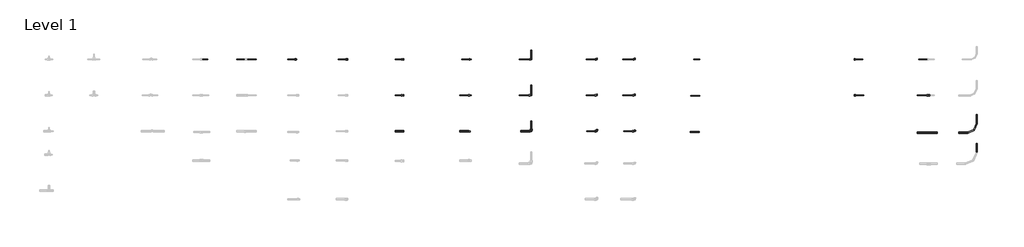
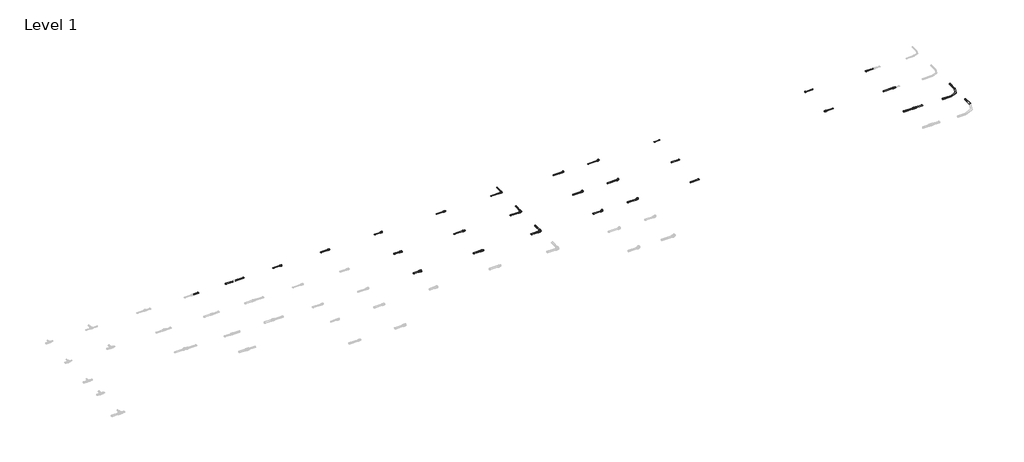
# One storey, part 12 of 16: 35 pipe segments, 24 pipe fittings.
"""IFC4 building model written with IfcOpenShell, lengths in millimetres."""

from ifc_helpers import new_model, si_unit, point, frame, frame_2d, origin, place, context, project, spatial, circle_curve, trimmed, segment, composite_curve, outline, extrude, transform, mapped, element, save
from components import pipe_fitting_24e9e25e, pipe_fitting_792dd94b, pipe_fitting_a5f7744a, pipe_fitting_d7e847e2, pipe_fitting_2fdc1963, pipe_fitting_5b5ff5cf, pipe_fitting_05bb6e73, pipe_fitting_31065531, pipe_fitting_a8691e68, pipe_fitting_d3274886, pipe_fitting_5bb2cb98, pipe_fitting_792aeb1b, pipe_fitting_ec6341fa, pipe_fitting_836a2278, pipe_fitting_2cdc80e6, pipe_fitting_749d9a03, pipe_fitting_037c3912, pipe_fitting_164b9098, pipe_fitting_15655edc, pipe_fitting_c1b6c9bd, pipe_fitting_c244d94c, pipe_fitting_ca26b6f5, pipe_fitting_c518d98d, pipe_fitting_b7086254

model = new_model("IFC4")

# Units and contexts
model_context = context("Model", 3, world=origin())
ifc_project = project(units=[si_unit("LENGTHUNIT", "METRE", prefix="MILLI")], contexts=[model_context])

# Site, building, storey
site = spatial("IfcSite", under=ifc_project)
building = spatial("IfcBuilding", under=site)
storey = spatial("IfcBuildingStorey", under=building, Name="Level 1", Elevation=0.0)

# Pipe fittings
placement = place(None, origin())
pipe_fitting_shape = pipe_fitting_24e9e25e(model_context)
element("IfcPipeFitting", 1, ObjectType="FASTLOC_Blanking plug EX+ : FSL Bp EX+ DE", at=placement, inside=storey, context=model_context, shape_type="MappedRepresentation", body=[
    mapped(pipe_fitting_shape, transform((22451.3241081, 1212.3520033, 0.0), x_axis=(1.0, 0.0, 0.0), y_axis=(0.0, 1.0, 0.0), z_axis=(0.0, 0.0, 1.0))),
])
pipe_fitting_2_shape = pipe_fitting_792dd94b(model_context)
element("IfcPipeFitting", 2, ObjectType="FASTLOC_Corner EX+ : FSL C EX+ DE", at=placement, inside=storey, context=model_context, shape_type="MappedRepresentation", body=[
    mapped(pipe_fitting_2_shape, transform((15275.3824015, 1212.3520033, 0.0), x_axis=(1.0, 0.0, 0.0), y_axis=(0.0, 1.0, 0.0), z_axis=(0.0, 0.0, 1.0))),
])
pipe_fitting_3_shape = pipe_fitting_a5f7744a(model_context)
element("IfcPipeFitting", 3, ObjectType="FASTLOC_Corner EX+ : FSL C EX+ DE", at=placement, inside=storey, context=model_context, shape_type="MappedRepresentation", body=[
    mapped(pipe_fitting_3_shape, transform((15275.3824015, 412.3520033, 0.0), x_axis=(1.0, 0.0, 0.0), y_axis=(0.0, 1.0, 0.0), z_axis=(0.0, 0.0, 1.0))),
])
pipe_fitting_4_shape = pipe_fitting_d7e847e2(model_context)
element("IfcPipeFitting", 4, ObjectType="FASTLOC_Elbow with female thread EX+ : FSL A internal DE", at=placement, inside=storey, context=model_context, shape_type="MappedRepresentation", body=[
    mapped(pipe_fitting_4_shape, transform((17573.8113057, 1212.3520033, 0.0), x_axis=(1.0, 0.0, 0.0), y_axis=(0.0, 1.0, 0.0), z_axis=(0.0, 0.0, 1.0))),
])
pipe_fitting_5_shape = pipe_fitting_2fdc1963(model_context)
element("IfcPipeFitting", 5, ObjectType="FASTLOC_Elbow with female thread EX+ : FSL A internal DE", at=placement, inside=storey, context=model_context, shape_type="MappedRepresentation", body=[
    mapped(pipe_fitting_5_shape, transform((17573.8113057, 412.3520033, 0.0), x_axis=(1.0, 0.0, 0.0), y_axis=(0.0, 1.0, 0.0), z_axis=(0.0, 0.0, 1.0))),
])
pipe_fitting_6_shape = pipe_fitting_5b5ff5cf(model_context)
element("IfcPipeFitting", 6, ObjectType="FASTLOC_Elbow with male thread EX+ : FSL A internal DE", at=placement, inside=storey, context=model_context, shape_type="MappedRepresentation", body=[
    mapped(pipe_fitting_6_shape, transform((16735.3824015, 2012.3520033, 0.0), x_axis=(1.0, 0.0, 0.0), y_axis=(0.0, 1.0, 0.0), z_axis=(0.0, 0.0, 1.0))),
])
pipe_fitting_7_shape = pipe_fitting_05bb6e73(model_context)
element("IfcPipeFitting", 7, ObjectType="FASTLOC_Elbow with male thread EX+ : FSL A internal DE", at=placement, inside=storey, context=model_context, shape_type="MappedRepresentation", body=[
    mapped(pipe_fitting_7_shape, transform((16735.3824015, 412.3520033, 0.0), x_axis=(1.0, 0.0, 0.0), y_axis=(0.0, 1.0, 0.0), z_axis=(0.0, 0.0, 1.0))),
])
pipe_fitting_8_shape = pipe_fitting_31065531(model_context)
element("IfcPipeFitting", 8, ObjectType="FASTLOC_ML_bend : FSL ML DE", at=placement, inside=storey, context=model_context, shape_type="MappedRepresentation", body=[
    mapped(pipe_fitting_8_shape, transform((25170.2040344, 381.145754, 0.0), x_axis=(1.0, 0.0, 0.0), y_axis=(0.0, 1.0, 0.0), z_axis=(0.0, 0.0, 1.0))),
])
pipe_fitting_9_shape = pipe_fitting_a8691e68(model_context)
element("IfcPipeFitting", 9, ObjectType="FASTLOC_Adapter_RX+, with external thread : FSL A C external EX+ DE", at=placement, inside=storey, context=model_context, shape_type="MappedRepresentation", body=[
    mapped(pipe_fitting_9_shape, transform((10045.0524741, 2012.3520033, 0.0), x_axis=(1.0, 0.0, 0.0), y_axis=(0.0, 1.0, 0.0), z_axis=(0.0, 0.0, 1.0))),
])
pipe_fitting_10_shape = pipe_fitting_d3274886(model_context)
element("IfcPipeFitting", 10, ObjectType="FASTLOC_Elbow with male thread EX+ : FSL A internal DE", at=placement, inside=storey, context=model_context, shape_type="MappedRepresentation", body=[
    mapped(pipe_fitting_10_shape, transform((16735.3824015, 1212.3520033, 0.0), x_axis=(1.0, 0.0, 0.0), y_axis=(0.0, 1.0, 0.0), z_axis=(0.0, 0.0, 1.0))),
])
pipe_fitting_11_shape = pipe_fitting_5bb2cb98(model_context)
element("IfcPipeFitting", 11, ObjectType="FASTLOC_Elbow with female thread EX+ : FSL A internal DE", at=placement, inside=storey, context=model_context, shape_type="MappedRepresentation", body=[
    mapped(pipe_fitting_11_shape, transform((17573.8113057, 2012.3520033, 0.0), x_axis=(1.0, 0.0, 0.0), y_axis=(0.0, 1.0, 0.0), z_axis=(0.0, 0.0, 1.0))),
])
pipe_fitting_12_shape = pipe_fitting_792aeb1b(model_context)
element("IfcPipeFitting", 12, ObjectType="FASTLOC_Corner EX+ : FSL C EX+ DE", at=placement, inside=storey, context=model_context, shape_type="MappedRepresentation", body=[
    mapped(pipe_fitting_12_shape, transform((15275.3824015, 2012.3520033, 0.0), x_axis=(1.0, 0.0, 0.0), y_axis=(0.0, 1.0, 0.0), z_axis=(0.0, 0.0, 1.0))),
])
pipe_fitting_13_shape = pipe_fitting_ec6341fa(model_context)
element("IfcPipeFitting", 13, ObjectType="FASTLOC_Blanking plug EX+ : FSL Bp EX+ DE", at=placement, inside=storey, context=model_context, shape_type="MappedRepresentation", body=[
    mapped(pipe_fitting_13_shape, transform((22451.3241081, 2012.3520033, 0.0), x_axis=(1.0, 0.0, 0.0), y_axis=(0.0, 1.0, 0.0), z_axis=(0.0, 0.0, 1.0))),
])
pipe_fitting_14_shape = pipe_fitting_836a2278(model_context)
element("IfcPipeFitting", 14, ObjectType="FASTLOC_Adapter_EX+, with internal thread : FSL A internal DE", at=placement, inside=storey, context=model_context, shape_type="MappedRepresentation", body=[
    mapped(pipe_fitting_14_shape, transform((11179.5143796, 2012.3520033, 0.0), x_axis=(1.0, 0.0, 0.0), y_axis=(0.0, 1.0, 0.0), z_axis=(0.0, 0.0, 1.0))),
])
pipe_fitting_15_shape = pipe_fitting_2cdc80e6(model_context)
element("IfcPipeFitting", 15, ObjectType="FASTLOC Copper press adapter RX+ : FSL RX+ DE", at=placement, inside=storey, context=model_context, shape_type="MappedRepresentation", body=[
    mapped(pipe_fitting_15_shape, transform((13915.3824015, 2012.3520033, 0.0), x_axis=(1.0, 0.0, 0.0), y_axis=(0.0, 1.0, 0.0), z_axis=(0.0, 0.0, 1.0))),
])
pipe_fitting_16_shape = pipe_fitting_749d9a03(model_context)
element("IfcPipeFitting", 16, ObjectType="RAUTITAN_Sleeve PX : RTI S PX", at=placement, inside=storey, context=model_context, shape_type="MappedRepresentation", body=[
    mapped(pipe_fitting_16_shape, transform((24105.6241081, 1212.3520033, 13.7), x_axis=(1.0, 0.0, 0.0), y_axis=(0.0, 1.0, 0.0), z_axis=(0.0, 0.0, 1.0))),
])
pipe_fitting_17_shape = pipe_fitting_037c3912(model_context)
element("IfcPipeFitting", 17, ObjectType="RAUTITAN_Sleeve PX : RTI S PX", at=placement, inside=storey, context=model_context, shape_type="MappedRepresentation", body=[
    mapped(pipe_fitting_17_shape, transform((24107.9241081, 381.145754, 13.7), x_axis=(1.0, 0.0, 0.0), y_axis=(0.0, 1.0, 0.0), z_axis=(0.0, 0.0, 1.0))),
])
pipe_fitting_18_shape = pipe_fitting_164b9098(model_context)
element("IfcPipeFitting", 18, ObjectType="FASTLOC Copper press adapter RX+ : FSL RX+ DE", at=placement, inside=storey, context=model_context, shape_type="MappedRepresentation", body=[
    mapped(pipe_fitting_18_shape, transform((13915.3824015, 1212.3520033, 0.0), x_axis=(1.0, 0.0, 0.0), y_axis=(0.0, 1.0, 0.0), z_axis=(0.0, 0.0, 1.0))),
])
pipe_fitting_19_shape = pipe_fitting_15655edc(model_context)
element("IfcPipeFitting", 19, ObjectType="FASTLOC Copper press adapter RX+ : FSL RX+ DE", at=placement, inside=storey, context=model_context, shape_type="MappedRepresentation", body=[
    mapped(pipe_fitting_19_shape, transform((13895.3824015, 412.3520033, 0.0), x_axis=(1.0, 0.0, 0.0), y_axis=(0.0, 1.0, 0.0), z_axis=(0.0, 0.0, 1.0))),
])
pipe_fitting_20_shape = pipe_fitting_c1b6c9bd(model_context)
element("IfcPipeFitting", 20, ObjectType="FASTLOC_Adapter coupling EX+ : FSL TC EX+ DE", at=placement, inside=storey, context=model_context, shape_type="MappedRepresentation", body=[
    mapped(pipe_fitting_20_shape, transform((24091.3241081, 1212.3520033, 13.7), x_axis=(1.0, 0.0, 0.0), y_axis=(0.0, 1.0, 0.0), z_axis=(0.0, 0.0, 1.0))),
])
pipe_fitting_21_shape = pipe_fitting_c244d94c(model_context)
element("IfcPipeFitting", 21, ObjectType="FASTLOC_Adapter coupling EX+ : FSL TC EX+ DE", at=placement, inside=storey, context=model_context, shape_type="MappedRepresentation", body=[
    mapped(pipe_fitting_21_shape, transform((24091.3241081, 381.145754, 13.7), x_axis=(1.0, 0.0, 0.0), y_axis=(0.0, 1.0, 0.0), z_axis=(0.0, 0.0, 1.0))),
])
pipe_fitting_22_shape = pipe_fitting_ca26b6f5(model_context)
element("IfcPipeFitting", 22, ObjectType="FASTLOC_Adapter with union nut EX+ : FSL A union nut EX+ DE", at=placement, inside=storey, context=model_context, shape_type="MappedRepresentation", body=[
    mapped(pipe_fitting_22_shape, transform((12418.3503777, 2012.3520033, 0.0), x_axis=(1.0, 0.0, 0.0), y_axis=(0.0, 1.0, 0.0), z_axis=(0.0, 0.0, 1.0))),
])
pipe_fitting_23_shape = pipe_fitting_c518d98d(model_context)
element("IfcPipeFitting", 23, ObjectType="FASTLOC_Adapter with union nut EX+ : FSL A union nut EX+ DE", at=placement, inside=storey, context=model_context, shape_type="MappedRepresentation", body=[
    mapped(pipe_fitting_23_shape, transform((12418.3503777, 1212.3520033, 0.0), x_axis=(1.0, 0.0, 0.0), y_axis=(0.0, 1.0, 0.0), z_axis=(0.0, 0.0, 1.0))),
])
pipe_fitting_24_shape = pipe_fitting_b7086254(model_context)
element("IfcPipeFitting", 24, ObjectType="FASTLOC_Adapter with union nut EX+ : FSL A union nut EX+ DE", at=placement, inside=storey, context=model_context, shape_type="MappedRepresentation", body=[
    mapped(pipe_fitting_24_shape, transform((12418.3503777, 412.3520033, 0.0), x_axis=(1.0, 0.0, 0.0), y_axis=(0.0, 1.0, 0.0), z_axis=(0.0, 0.0, 1.0))),
])

# Pipe segments
element("IfcPipeSegment", 25, ObjectType="FASTLOC EX+ ML DE bar", at=placement, inside=storey, context=model_context, shape_type="SweptSolid", body=[
    extrude(outline(composite_curve([segment(trimmed(circle_curve(frame_2d((0.0, 25170.2040344)), 12.5), [point((0.0, 25182.7040344))], [point((12.5, 25170.2040344))], False, "CARTESIAN"), True, "CONTINUOUS"), segment(trimmed(circle_curve(frame_2d((0.0, 25170.2040344)), 12.5), [point((12.5, 25170.2040344))], [point((0.0, 25157.7040344))], False, "CARTESIAN"), True, "CONTINUOUS"), segment(trimmed(circle_curve(frame_2d((0.0, 25170.2040344)), 12.5), [point((0.0, 25157.7040344))], [point((-12.5, 25170.2040344))], False, "CARTESIAN"), True, "CONTINUOUS"), segment(trimmed(circle_curve(frame_2d((0.0, 25170.2040344)), 12.5), [point((-12.5, 25170.2040344))], [point((0.0, 25182.7040344))], False, "CARTESIAN"), True, "CONTINUOUS")], self_intersect=False)), frame((0.0, 581.145754, 0.0), z_axis=(0.0, 1.0, 0.0), x_axis=(0.0, 0.0, 1.0)), (0.0, 0.0, 1.0), 200.0),
])
element("IfcPipeSegment", 26, ObjectType="FASTLOC EX+ ML DE bar", at=placement, inside=storey, context=model_context, shape_type="SweptSolid", body=[
    extrude(outline(composite_curve([segment(trimmed(circle_curve(frame_2d((381.145754, 0.0)), 12.5), [point((393.645754, 0.0))], [point((381.145754, -12.5))], False, "CARTESIAN"), True, "CONTINUOUS"), segment(trimmed(circle_curve(frame_2d((381.145754, 0.0)), 12.5), [point((381.145754, -12.5))], [point((368.645754, 0.0))], False, "CARTESIAN"), True, "CONTINUOUS"), segment(trimmed(circle_curve(frame_2d((381.145754, 0.0)), 12.5), [point((368.645754, 0.0))], [point((381.145754, 12.5))], False, "CARTESIAN"), True, "CONTINUOUS"), segment(trimmed(circle_curve(frame_2d((381.145754, 0.0)), 12.5), [point((381.145754, 12.5))], [point((393.645754, 0.0))], False, "CARTESIAN"), True, "CONTINUOUS")], self_intersect=False)), frame((24770.2040344, 0.0, 0.0), z_axis=(1.0, 0.0, 0.0), x_axis=(0.0, 1.0, 0.0)), (0.0, 0.0, 1.0), 200.0),
])
element("IfcPipeSegment", 27, ObjectType="FASTLOC EX+ ML DE bar", at=placement, inside=storey, context=model_context, shape_type="SweptSolid", body=[
    extrude(outline(composite_curve([segment(trimmed(circle_curve(frame_2d((0.0, 25170.2040344)), 16.0), [point((0.0, 25186.2040344))], [point((16.0, 25170.2040344))], False, "CARTESIAN"), True, "CONTINUOUS"), segment(trimmed(circle_curve(frame_2d((0.0, 25170.2040344)), 16.0), [point((16.0, 25170.2040344))], [point((0.0, 25154.2040344))], False, "CARTESIAN"), True, "CONTINUOUS"), segment(trimmed(circle_curve(frame_2d((0.0, 25170.2040344)), 16.0), [point((0.0, 25154.2040344))], [point((-16.0, 25170.2040344))], False, "CARTESIAN"), True, "CONTINUOUS"), segment(trimmed(circle_curve(frame_2d((0.0, 25170.2040344)), 16.0), [point((-16.0, 25170.2040344))], [point((0.0, 25186.2040344))], False, "CARTESIAN"), True, "CONTINUOUS")], self_intersect=False)), frame((0.0, -55.8142398, 0.0), z_axis=(0.0, 1.0, 0.0), x_axis=(0.0, 0.0, 1.0)), (0.0, 0.0, 1.0), 200.0),
])
element("IfcPipeSegment", 28, ObjectType="FASTLOC EX+ ML DE bar", at=placement, inside=storey, context=model_context, shape_type="SweptSolid", body=[
    extrude(outline(composite_curve([segment(trimmed(circle_curve(frame_2d((381.145754, 13.7)), 12.5), [point((393.645754, 13.7))], [point((381.145754, 1.2))], False, "CARTESIAN"), True, "CONTINUOUS"), segment(trimmed(circle_curve(frame_2d((381.145754, 13.7)), 12.5), [point((381.145754, 1.2))], [point((368.645754, 13.7))], False, "CARTESIAN"), True, "CONTINUOUS"), segment(trimmed(circle_curve(frame_2d((381.145754, 13.7)), 12.5), [point((368.645754, 13.7))], [point((381.145754, 26.2))], False, "CARTESIAN"), True, "CONTINUOUS"), segment(trimmed(circle_curve(frame_2d((381.145754, 13.7)), 12.5), [point((381.145754, 26.2))], [point((393.645754, 13.7))], False, "CARTESIAN"), True, "CONTINUOUS")], self_intersect=False)), frame((23846.7241081, 0.0, 0.0), z_axis=(1.0, 0.0, 0.0), x_axis=(0.0, 1.0, 0.0)), (0.0, 0.0, 1.0), 240.0),
])
element("IfcPipeSegment", 29, ObjectType="FASTLOC EX+ ML DE bar", at=placement, inside=storey, context=model_context, shape_type="SweptSolid", body=[
    extrude(outline(composite_curve([segment(trimmed(circle_curve(frame_2d((381.145754, 13.7)), 12.5), [point((368.645754, 13.7))], [point((381.145754, 26.2))], False, "CARTESIAN"), True, "CONTINUOUS"), segment(trimmed(circle_curve(frame_2d((381.145754, 13.7)), 12.5), [point((381.145754, 26.2))], [point((393.645754, 13.7))], False, "CARTESIAN"), True, "CONTINUOUS"), segment(trimmed(circle_curve(frame_2d((381.145754, 13.7)), 12.5), [point((393.645754, 13.7))], [point((381.145754, 1.2))], False, "CARTESIAN"), True, "CONTINUOUS"), segment(trimmed(circle_curve(frame_2d((381.145754, 13.7)), 12.5), [point((381.145754, 1.2))], [point((368.645754, 13.7))], False, "CARTESIAN"), True, "CONTINUOUS")], self_intersect=False)), frame((24107.9241081, 0.0, 0.0), z_axis=(1.0, 0.0, 0.0), x_axis=(0.0, 1.0, 0.0)), (0.0, 0.0, 1.0), 182.7),
])
element("IfcPipeSegment", 30, ObjectType="FASTLOC EX+ ML DE bar", at=placement, inside=storey, context=model_context, shape_type="SweptSolid", body=[
    extrude(outline(composite_curve([segment(trimmed(circle_curve(frame_2d((1212.3520033, 13.7)), 10.0), [point((1222.3520033, 13.7))], [point((1212.3520033, 3.7))], False, "CARTESIAN"), True, "CONTINUOUS"), segment(trimmed(circle_curve(frame_2d((1212.3520033, 13.7)), 10.0), [point((1212.3520033, 3.7))], [point((1202.3520033, 13.7))], False, "CARTESIAN"), True, "CONTINUOUS"), segment(trimmed(circle_curve(frame_2d((1212.3520033, 13.7)), 10.0), [point((1202.3520033, 13.7))], [point((1212.3520033, 23.7))], False, "CARTESIAN"), True, "CONTINUOUS"), segment(trimmed(circle_curve(frame_2d((1212.3520033, 13.7)), 10.0), [point((1212.3520033, 23.7))], [point((1222.3520033, 13.7))], False, "CARTESIAN"), True, "CONTINUOUS")], self_intersect=False)), frame((23846.7241081, 0.0, 0.0), z_axis=(1.0, 0.0, 0.0), x_axis=(0.0, 1.0, 0.0)), (0.0, 0.0, 1.0), 240.3),
])
element("IfcPipeSegment", 31, ObjectType="FASTLOC EX+ ML DE bar", at=placement, inside=storey, context=model_context, shape_type="SweptSolid", body=[
    extrude(outline(composite_curve([segment(trimmed(circle_curve(frame_2d((2012.3520033, 13.7)), 8.0), [point((2020.3520033, 13.7))], [point((2012.3520033, 5.7))], False, "CARTESIAN"), True, "CONTINUOUS"), segment(trimmed(circle_curve(frame_2d((2012.3520033, 13.7)), 8.0), [point((2012.3520033, 5.7))], [point((2004.3520033, 13.7))], False, "CARTESIAN"), True, "CONTINUOUS"), segment(trimmed(circle_curve(frame_2d((2012.3520033, 13.7)), 8.0), [point((2004.3520033, 13.7))], [point((2012.3520033, 21.7))], False, "CARTESIAN"), True, "CONTINUOUS"), segment(trimmed(circle_curve(frame_2d((2012.3520033, 13.7)), 8.0), [point((2012.3520033, 21.7))], [point((2020.3520033, 13.7))], False, "CARTESIAN"), True, "CONTINUOUS")], self_intersect=False)), frame((23887.0241081, 0.0, 0.0), z_axis=(1.0, 0.0, 0.0), x_axis=(0.0, 1.0, 0.0)), (0.0, 0.0, 1.0), 200.0),
])
element("IfcPipeSegment", 32, ObjectType="FASTLOC EX+ ML DE bar", at=placement, inside=storey, context=model_context, shape_type="SweptSolid", body=[
    extrude(outline(composite_curve([segment(trimmed(circle_curve(frame_2d((2012.3520033, 0.0)), 8.0), [point((2004.3520033, 0.0))], [point((2012.3520033, 8.0))], False, "CARTESIAN"), True, "CONTINUOUS"), segment(trimmed(circle_curve(frame_2d((2012.3520033, 0.0)), 8.0), [point((2012.3520033, 8.0))], [point((2020.3520033, 0.0))], False, "CARTESIAN"), True, "CONTINUOUS"), segment(trimmed(circle_curve(frame_2d((2012.3520033, 0.0)), 8.0), [point((2020.3520033, 0.0))], [point((2012.3520033, -8.0))], False, "CARTESIAN"), True, "CONTINUOUS"), segment(trimmed(circle_curve(frame_2d((2012.3520033, 0.0)), 8.0), [point((2012.3520033, -8.0))], [point((2004.3520033, 0.0))], False, "CARTESIAN"), True, "CONTINUOUS")], self_intersect=False)), frame((22458.0241081, 0.0, 0.0), z_axis=(1.0, 0.0, 0.0), x_axis=(0.0, 1.0, 0.0)), (0.0, 0.0, 1.0), 180.0),
])
element("IfcPipeSegment", 33, ObjectType="FASTLOC EX+ ML DE bar", at=placement, inside=storey, context=model_context, shape_type="SweptSolid", body=[
    extrude(outline(composite_curve([segment(trimmed(circle_curve(frame_2d((1212.3520033, 0.0)), 10.0), [point((1202.3520033, 0.0))], [point((1212.3520033, 10.0))], False, "CARTESIAN"), True, "CONTINUOUS"), segment(trimmed(circle_curve(frame_2d((1212.3520033, 0.0)), 10.0), [point((1212.3520033, 10.0))], [point((1222.3520033, 0.0))], False, "CARTESIAN"), True, "CONTINUOUS"), segment(trimmed(circle_curve(frame_2d((1212.3520033, 0.0)), 10.0), [point((1222.3520033, 0.0))], [point((1212.3520033, -10.0))], False, "CARTESIAN"), True, "CONTINUOUS"), segment(trimmed(circle_curve(frame_2d((1212.3520033, 0.0)), 10.0), [point((1212.3520033, -10.0))], [point((1202.3520033, 0.0))], False, "CARTESIAN"), True, "CONTINUOUS")], self_intersect=False)), frame((22458.0241081, 0.0, 0.0), z_axis=(1.0, 0.0, 0.0), x_axis=(0.0, 1.0, 0.0)), (0.0, 0.0, 1.0), 200.0),
])
element("IfcPipeSegment", 34, ObjectType="FASTLOC EX+ ML DE bar", at=placement, inside=storey, context=model_context, shape_type="SweptSolid", body=[
    extrude(outline(composite_curve([segment(trimmed(circle_curve(frame_2d((2012.3520033, 0.0)), 8.0), [point((2020.3520033, 0.0))], [point((2012.3520033, -8.0))], False, "CARTESIAN"), True, "CONTINUOUS"), segment(trimmed(circle_curve(frame_2d((2012.3520033, 0.0)), 8.0), [point((2012.3520033, -8.0))], [point((2004.3520033, 0.0))], False, "CARTESIAN"), True, "CONTINUOUS"), segment(trimmed(circle_curve(frame_2d((2012.3520033, 0.0)), 8.0), [point((2004.3520033, 0.0))], [point((2012.3520033, 8.0))], False, "CARTESIAN"), True, "CONTINUOUS"), segment(trimmed(circle_curve(frame_2d((2012.3520033, 0.0)), 8.0), [point((2012.3520033, 8.0))], [point((2020.3520033, 0.0))], False, "CARTESIAN"), True, "CONTINUOUS")], self_intersect=False)), frame((18882.8824015, 0.0, 0.0), z_axis=(1.0, 0.0, 0.0), x_axis=(0.0, 1.0, 0.0)), (0.0, 0.0, 1.0), 130.0),
])
element("IfcPipeSegment", 35, ObjectType="FASTLOC EX+ ML DE bar", at=placement, inside=storey, context=model_context, shape_type="SweptSolid", body=[
    extrude(outline(composite_curve([segment(trimmed(circle_curve(frame_2d((1204.3520033, 0.0)), 8.0), [point((1212.3520033, 0.0))], [point((1204.3520033, -8.0))], False, "CARTESIAN"), True, "CONTINUOUS"), segment(trimmed(circle_curve(frame_2d((1204.3520033, 0.0)), 8.0), [point((1204.3520033, -8.0))], [point((1196.3520033, 0.0))], False, "CARTESIAN"), True, "CONTINUOUS"), segment(trimmed(circle_curve(frame_2d((1204.3520033, 0.0)), 8.0), [point((1196.3520033, 0.0))], [point((1204.3520033, 8.0))], False, "CARTESIAN"), True, "CONTINUOUS"), segment(trimmed(circle_curve(frame_2d((1204.3520033, 0.0)), 8.0), [point((1204.3520033, 8.0))], [point((1212.3520033, 0.0))], False, "CARTESIAN"), True, "CONTINUOUS")], self_intersect=False)), frame((18822.8824015, 0.0, 0.0), z_axis=(1.0, 0.0, 0.0), x_axis=(0.0, 1.0, 0.0)), (0.0, 0.0, 1.0), 190.0),
])
element("IfcPipeSegment", 36, ObjectType="FASTLOC EX+ ML DE bar", at=placement, inside=storey, context=model_context, shape_type="SweptSolid", body=[
    extrude(outline(composite_curve([segment(trimmed(circle_curve(frame_2d((393.645754, 0.0)), 12.5), [point((406.145754, 0.0))], [point((393.645754, -12.5))], False, "CARTESIAN"), True, "CONTINUOUS"), segment(trimmed(circle_curve(frame_2d((393.645754, 0.0)), 12.5), [point((393.645754, -12.5))], [point((381.145754, 0.0))], False, "CARTESIAN"), True, "CONTINUOUS"), segment(trimmed(circle_curve(frame_2d((393.645754, 0.0)), 12.5), [point((381.145754, 0.0))], [point((393.645754, 12.5))], False, "CARTESIAN"), True, "CONTINUOUS"), segment(trimmed(circle_curve(frame_2d((393.645754, 0.0)), 12.5), [point((393.645754, 12.5))], [point((406.145754, 0.0))], False, "CARTESIAN"), True, "CONTINUOUS")], self_intersect=False)), frame((18808.4824015, 0.0, 0.0), z_axis=(1.0, 0.0, 0.0), x_axis=(0.0, 1.0, 0.0)), (0.0, 0.0, 1.0), 200.0),
])
element("IfcPipeSegment", 37, ObjectType="FASTLOC EX+ ML DE bar", at=placement, inside=storey, context=model_context, shape_type="SweptSolid", body=[
    extrude(outline(composite_curve([segment(trimmed(circle_curve(frame_2d((412.3520033, 0.0)), 10.0), [point((422.3520033, 0.0))], [point((412.3520033, -10.0))], False, "CARTESIAN"), True, "CONTINUOUS"), segment(trimmed(circle_curve(frame_2d((412.3520033, 0.0)), 10.0), [point((412.3520033, -10.0))], [point((402.3520033, 0.0))], False, "CARTESIAN"), True, "CONTINUOUS"), segment(trimmed(circle_curve(frame_2d((412.3520033, 0.0)), 10.0), [point((402.3520033, 0.0))], [point((412.3520033, 10.0))], False, "CARTESIAN"), True, "CONTINUOUS"), segment(trimmed(circle_curve(frame_2d((412.3520033, 0.0)), 10.0), [point((412.3520033, 10.0))], [point((422.3520033, 0.0))], False, "CARTESIAN"), True, "CONTINUOUS")], self_intersect=False)), frame((17326.8113057, 0.0, 0.0), z_axis=(1.0, 0.0, 0.0), x_axis=(0.0, 1.0, 0.0)), (0.0, 0.0, 1.0), 221.0),
])
element("IfcPipeSegment", 38, ObjectType="FASTLOC EX+ ML DE bar", at=placement, inside=storey, context=model_context, shape_type="SweptSolid", body=[
    extrude(outline(composite_curve([segment(trimmed(circle_curve(frame_2d((1212.3520033, 0.0)), 10.0), [point((1222.3520033, 0.0))], [point((1212.3520033, -10.0))], False, "CARTESIAN"), True, "CONTINUOUS"), segment(trimmed(circle_curve(frame_2d((1212.3520033, 0.0)), 10.0), [point((1212.3520033, -10.0))], [point((1202.3520033, 0.0))], False, "CARTESIAN"), True, "CONTINUOUS"), segment(trimmed(circle_curve(frame_2d((1212.3520033, 0.0)), 10.0), [point((1202.3520033, 0.0))], [point((1212.3520033, 10.0))], False, "CARTESIAN"), True, "CONTINUOUS"), segment(trimmed(circle_curve(frame_2d((1212.3520033, 0.0)), 10.0), [point((1212.3520033, 10.0))], [point((1222.3520033, 0.0))], False, "CARTESIAN"), True, "CONTINUOUS")], self_intersect=False)), frame((17311.1113057, 0.0, 0.0), z_axis=(1.0, 0.0, 0.0), x_axis=(0.0, 1.0, 0.0)), (0.0, 0.0, 1.0), 240.0),
])
element("IfcPipeSegment", 39, ObjectType="FASTLOC EX+ ML DE bar", at=placement, inside=storey, context=model_context, shape_type="SweptSolid", body=[
    extrude(outline(composite_curve([segment(trimmed(circle_curve(frame_2d((2012.3520033, 0.0)), 8.0), [point((2020.3520033, 0.0))], [point((2012.3520033, -8.0))], False, "CARTESIAN"), True, "CONTINUOUS"), segment(trimmed(circle_curve(frame_2d((2012.3520033, 0.0)), 8.0), [point((2012.3520033, -8.0))], [point((2004.3520033, 0.0))], False, "CARTESIAN"), True, "CONTINUOUS"), segment(trimmed(circle_curve(frame_2d((2012.3520033, 0.0)), 8.0), [point((2004.3520033, 0.0))], [point((2012.3520033, 8.0))], False, "CARTESIAN"), True, "CONTINUOUS"), segment(trimmed(circle_curve(frame_2d((2012.3520033, 0.0)), 8.0), [point((2012.3520033, 8.0))], [point((2020.3520033, 0.0))], False, "CARTESIAN"), True, "CONTINUOUS")], self_intersect=False)), frame((17311.1113057, 0.0, 0.0), z_axis=(1.0, 0.0, 0.0), x_axis=(0.0, 1.0, 0.0)), (0.0, 0.0, 1.0), 240.4),
])
element("IfcPipeSegment", 40, ObjectType="FASTLOC EX+ ML DE bar", at=placement, inside=storey, context=model_context, shape_type="SweptSolid", body=[
    extrude(outline(composite_curve([segment(trimmed(circle_curve(frame_2d((2012.3520033, 0.0)), 8.0), [point((2020.3520033, 0.0))], [point((2012.3520033, -8.0))], False, "CARTESIAN"), True, "CONTINUOUS"), segment(trimmed(circle_curve(frame_2d((2012.3520033, 0.0)), 8.0), [point((2012.3520033, -8.0))], [point((2004.3520033, 0.0))], False, "CARTESIAN"), True, "CONTINUOUS"), segment(trimmed(circle_curve(frame_2d((2012.3520033, 0.0)), 8.0), [point((2004.3520033, 0.0))], [point((2012.3520033, 8.0))], False, "CARTESIAN"), True, "CONTINUOUS"), segment(trimmed(circle_curve(frame_2d((2012.3520033, 0.0)), 8.0), [point((2012.3520033, 8.0))], [point((2020.3520033, 0.0))], False, "CARTESIAN"), True, "CONTINUOUS")], self_intersect=False)), frame((16495.5824015, 0.0, 0.0), z_axis=(1.0, 0.0, 0.0), x_axis=(0.0, 1.0, 0.0)), (0.0, 0.0, 1.0), 220.0),
])
element("IfcPipeSegment", 41, ObjectType="FASTLOC EX+ ML DE bar", at=placement, inside=storey, context=model_context, shape_type="SweptSolid", body=[
    extrude(outline(composite_curve([segment(trimmed(circle_curve(frame_2d((1212.3520033, 0.0)), 10.0), [point((1222.3520033, 0.0))], [point((1212.3520033, -10.0))], False, "CARTESIAN"), True, "CONTINUOUS"), segment(trimmed(circle_curve(frame_2d((1212.3520033, 0.0)), 10.0), [point((1212.3520033, -10.0))], [point((1202.3520033, 0.0))], False, "CARTESIAN"), True, "CONTINUOUS"), segment(trimmed(circle_curve(frame_2d((1212.3520033, 0.0)), 10.0), [point((1202.3520033, 0.0))], [point((1212.3520033, 10.0))], False, "CARTESIAN"), True, "CONTINUOUS"), segment(trimmed(circle_curve(frame_2d((1212.3520033, 0.0)), 10.0), [point((1212.3520033, 10.0))], [point((1222.3520033, 0.0))], False, "CARTESIAN"), True, "CONTINUOUS")], self_intersect=False)), frame((16495.5824015, 0.0, 0.0), z_axis=(1.0, 0.0, 0.0), x_axis=(0.0, 1.0, 0.0)), (0.0, 0.0, 1.0), 219.6),
])
element("IfcPipeSegment", 42, ObjectType="FASTLOC EX+ ML DE bar", at=placement, inside=storey, context=model_context, shape_type="SweptSolid", body=[
    extrude(outline(composite_curve([segment(trimmed(circle_curve(frame_2d((412.3520033, 0.0)), 10.0), [point((422.3520033, 0.0))], [point((412.3520033, -10.0))], False, "CARTESIAN"), True, "CONTINUOUS"), segment(trimmed(circle_curve(frame_2d((412.3520033, 0.0)), 10.0), [point((412.3520033, -10.0))], [point((402.3520033, 0.0))], False, "CARTESIAN"), True, "CONTINUOUS"), segment(trimmed(circle_curve(frame_2d((412.3520033, 0.0)), 10.0), [point((402.3520033, 0.0))], [point((412.3520033, 10.0))], False, "CARTESIAN"), True, "CONTINUOUS"), segment(trimmed(circle_curve(frame_2d((412.3520033, 0.0)), 10.0), [point((412.3520033, 10.0))], [point((422.3520033, 0.0))], False, "CARTESIAN"), True, "CONTINUOUS")], self_intersect=False)), frame((16512.1824015, 0.0, 0.0), z_axis=(1.0, 0.0, 0.0), x_axis=(0.0, 1.0, 0.0)), (0.0, 0.0, 1.0), 200.0),
])
element("IfcPipeSegment", 43, ObjectType="FASTLOC EX+ ML DE bar", at=placement, inside=storey, context=model_context, shape_type="SweptSolid", body=[
    extrude(outline(composite_curve([segment(trimmed(circle_curve(frame_2d((2012.3520033, 0.0)), 8.0), [point((2020.3520033, 0.0))], [point((2012.3520033, -8.0))], False, "CARTESIAN"), True, "CONTINUOUS"), segment(trimmed(circle_curve(frame_2d((2012.3520033, 0.0)), 8.0), [point((2012.3520033, -8.0))], [point((2004.3520033, 0.0))], False, "CARTESIAN"), True, "CONTINUOUS"), segment(trimmed(circle_curve(frame_2d((2012.3520033, 0.0)), 8.0), [point((2004.3520033, 0.0))], [point((2012.3520033, 8.0))], False, "CARTESIAN"), True, "CONTINUOUS"), segment(trimmed(circle_curve(frame_2d((2012.3520033, 0.0)), 8.0), [point((2012.3520033, 8.0))], [point((2020.3520033, 0.0))], False, "CARTESIAN"), True, "CONTINUOUS")], self_intersect=False)), frame((15013.2824015, 0.0, 0.0), z_axis=(1.0, 0.0, 0.0), x_axis=(0.0, 1.0, 0.0)), (0.0, 0.0, 1.0), 240.0),
])
element("IfcPipeSegment", 44, ObjectType="FASTLOC EX+ ML DE bar", at=placement, inside=storey, context=model_context, shape_type="SweptSolid", body=[
    extrude(outline(composite_curve([segment(trimmed(circle_curve(frame_2d((1212.3520033, 0.0)), 10.0), [point((1222.3520033, 0.0))], [point((1212.3520033, -10.0))], False, "CARTESIAN"), True, "CONTINUOUS"), segment(trimmed(circle_curve(frame_2d((1212.3520033, 0.0)), 10.0), [point((1212.3520033, -10.0))], [point((1202.3520033, 0.0))], False, "CARTESIAN"), True, "CONTINUOUS"), segment(trimmed(circle_curve(frame_2d((1212.3520033, 0.0)), 10.0), [point((1202.3520033, 0.0))], [point((1212.3520033, 10.0))], False, "CARTESIAN"), True, "CONTINUOUS"), segment(trimmed(circle_curve(frame_2d((1212.3520033, 0.0)), 10.0), [point((1212.3520033, 10.0))], [point((1222.3520033, 0.0))], False, "CARTESIAN"), True, "CONTINUOUS")], self_intersect=False)), frame((15013.2824015, 0.0, 0.0), z_axis=(1.0, 0.0, 0.0), x_axis=(0.0, 1.0, 0.0)), (0.0, 0.0, 1.0), 237.5),
])
element("IfcPipeSegment", 45, ObjectType="FASTLOC EX+ ML DE bar", at=placement, inside=storey, context=model_context, shape_type="SweptSolid", body=[
    extrude(outline(composite_curve([segment(trimmed(circle_curve(frame_2d((0.0, 15275.3824015)), 10.0), [point((0.0, 15285.3824015))], [point((10.0, 15275.3824015))], False, "CARTESIAN"), True, "CONTINUOUS"), segment(trimmed(circle_curve(frame_2d((0.0, 15275.3824015)), 10.0), [point((10.0, 15275.3824015))], [point((0.0, 15265.3824015))], False, "CARTESIAN"), True, "CONTINUOUS"), segment(trimmed(circle_curve(frame_2d((0.0, 15275.3824015)), 10.0), [point((0.0, 15265.3824015))], [point((-10.0, 15275.3824015))], False, "CARTESIAN"), True, "CONTINUOUS"), segment(trimmed(circle_curve(frame_2d((0.0, 15275.3824015)), 10.0), [point((-10.0, 15275.3824015))], [point((0.0, 15285.3824015))], False, "CARTESIAN"), True, "CONTINUOUS")], self_intersect=False)), frame((0.0, 1236.9520033, 0.0), z_axis=(0.0, 1.0, 0.0), x_axis=(0.0, 0.0, 1.0)), (0.0, 0.0, 1.0), 200.0),
])
element("IfcPipeSegment", 46, ObjectType="FASTLOC EX+ ML DE bar", at=placement, inside=storey, context=model_context, shape_type="SweptSolid", body=[
    extrude(outline(composite_curve([segment(trimmed(circle_curve(frame_2d((0.0, 15275.3824015)), 8.0), [point((0.0, 15283.3824015))], [point((8.0, 15275.3824015))], False, "CARTESIAN"), True, "CONTINUOUS"), segment(trimmed(circle_curve(frame_2d((0.0, 15275.3824015)), 8.0), [point((8.0, 15275.3824015))], [point((0.0, 15267.3824015))], False, "CARTESIAN"), True, "CONTINUOUS"), segment(trimmed(circle_curve(frame_2d((0.0, 15275.3824015)), 8.0), [point((0.0, 15267.3824015))], [point((-8.0, 15275.3824015))], False, "CARTESIAN"), True, "CONTINUOUS"), segment(trimmed(circle_curve(frame_2d((0.0, 15275.3824015)), 8.0), [point((-8.0, 15275.3824015))], [point((0.0, 15283.3824015))], False, "CARTESIAN"), True, "CONTINUOUS")], self_intersect=False)), frame((0.0, 2034.4520033, 0.0), z_axis=(0.0, 1.0, 0.0), x_axis=(0.0, 0.0, 1.0)), (0.0, 0.0, 1.0), 180.0),
])
element("IfcPipeSegment", 47, ObjectType="FASTLOC EX+ ML DE bar", at=placement, inside=storey, context=model_context, shape_type="SweptSolid", body=[
    extrude(outline(composite_curve([segment(trimmed(circle_curve(frame_2d((0.0, 15275.3824015)), 12.5), [point((0.0, 15287.8824015))], [point((12.5, 15275.3824015))], False, "CARTESIAN"), True, "CONTINUOUS"), segment(trimmed(circle_curve(frame_2d((0.0, 15275.3824015)), 12.5), [point((12.5, 15275.3824015))], [point((0.0, 15262.8824015))], False, "CARTESIAN"), True, "CONTINUOUS"), segment(trimmed(circle_curve(frame_2d((0.0, 15275.3824015)), 12.5), [point((0.0, 15262.8824015))], [point((-12.5, 15275.3824015))], False, "CARTESIAN"), True, "CONTINUOUS"), segment(trimmed(circle_curve(frame_2d((0.0, 15275.3824015)), 12.5), [point((-12.5, 15275.3824015))], [point((0.0, 15287.8824015))], False, "CARTESIAN"), True, "CONTINUOUS")], self_intersect=False)), frame((0.0, 441.3520033, 0.0), z_axis=(0.0, 1.0, 0.0), x_axis=(0.0, 0.0, 1.0)), (0.0, 0.0, 1.0), 200.0),
])
element("IfcPipeSegment", 48, ObjectType="FASTLOC EX+ ML DE bar", at=placement, inside=storey, context=model_context, shape_type="SweptSolid", body=[
    extrude(outline(composite_curve([segment(trimmed(circle_curve(frame_2d((412.3520033, 0.0)), 12.5), [point((424.8520033, 0.0))], [point((412.3520033, -12.5))], False, "CARTESIAN"), True, "CONTINUOUS"), segment(trimmed(circle_curve(frame_2d((412.3520033, 0.0)), 12.5), [point((412.3520033, -12.5))], [point((399.8520033, 0.0))], False, "CARTESIAN"), True, "CONTINUOUS"), segment(trimmed(circle_curve(frame_2d((412.3520033, 0.0)), 12.5), [point((399.8520033, 0.0))], [point((412.3520033, 12.5))], False, "CARTESIAN"), True, "CONTINUOUS"), segment(trimmed(circle_curve(frame_2d((412.3520033, 0.0)), 12.5), [point((412.3520033, 12.5))], [point((424.8520033, 0.0))], False, "CARTESIAN"), True, "CONTINUOUS")], self_intersect=False)), frame((15046.3824015, 0.0, 0.0), z_axis=(1.0, 0.0, 0.0), x_axis=(0.0, 1.0, 0.0)), (0.0, 0.0, 1.0), 200.0),
])
element("IfcPipeSegment", 49, ObjectType="FASTLOC EX+ ML DE bar", at=placement, inside=storey, context=model_context, shape_type="SweptSolid", body=[
    extrude(outline(composite_curve([segment(trimmed(circle_curve(frame_2d((412.3520033, 0.0)), 12.5), [point((424.8520033, 0.0))], [point((412.3520033, -12.5))], False, "CARTESIAN"), True, "CONTINUOUS"), segment(trimmed(circle_curve(frame_2d((412.3520033, 0.0)), 12.5), [point((412.3520033, -12.5))], [point((399.8520033, 0.0))], False, "CARTESIAN"), True, "CONTINUOUS"), segment(trimmed(circle_curve(frame_2d((412.3520033, 0.0)), 12.5), [point((399.8520033, 0.0))], [point((412.3520033, 12.5))], False, "CARTESIAN"), True, "CONTINUOUS"), segment(trimmed(circle_curve(frame_2d((412.3520033, 0.0)), 12.5), [point((412.3520033, 12.5))], [point((424.8520033, 0.0))], False, "CARTESIAN"), True, "CONTINUOUS")], self_intersect=False)), frame((13682.2824015, 0.0, 0.0), z_axis=(1.0, 0.0, 0.0), x_axis=(0.0, 1.0, 0.0)), (0.0, 0.0, 1.0), 202.5),
])
element("IfcPipeSegment", 50, ObjectType="FASTLOC EX+ ML DE bar", at=placement, inside=storey, context=model_context, shape_type="SweptSolid", body=[
    extrude(outline(composite_curve([segment(trimmed(circle_curve(frame_2d((1212.3520033, 0.0)), 10.0), [point((1222.3520033, 0.0))], [point((1212.3520033, -10.0))], False, "CARTESIAN"), True, "CONTINUOUS"), segment(trimmed(circle_curve(frame_2d((1212.3520033, 0.0)), 10.0), [point((1212.3520033, -10.0))], [point((1202.3520033, 0.0))], False, "CARTESIAN"), True, "CONTINUOUS"), segment(trimmed(circle_curve(frame_2d((1212.3520033, 0.0)), 10.0), [point((1202.3520033, 0.0))], [point((1212.3520033, 10.0))], False, "CARTESIAN"), True, "CONTINUOUS"), segment(trimmed(circle_curve(frame_2d((1212.3520033, 0.0)), 10.0), [point((1212.3520033, 10.0))], [point((1222.3520033, 0.0))], False, "CARTESIAN"), True, "CONTINUOUS")], self_intersect=False)), frame((13682.2824015, 0.0, 0.0), z_axis=(1.0, 0.0, 0.0), x_axis=(0.0, 1.0, 0.0)), (0.0, 0.0, 1.0), 223.9),
])
element("IfcPipeSegment", 51, ObjectType="FASTLOC EX+ ML DE bar", at=placement, inside=storey, context=model_context, shape_type="SweptSolid", body=[
    extrude(outline(composite_curve([segment(trimmed(circle_curve(frame_2d((2012.3520033, 0.0)), 8.0), [point((2020.3520033, 0.0))], [point((2012.3520033, -8.0))], False, "CARTESIAN"), True, "CONTINUOUS"), segment(trimmed(circle_curve(frame_2d((2012.3520033, 0.0)), 8.0), [point((2012.3520033, -8.0))], [point((2004.3520033, 0.0))], False, "CARTESIAN"), True, "CONTINUOUS"), segment(trimmed(circle_curve(frame_2d((2012.3520033, 0.0)), 8.0), [point((2004.3520033, 0.0))], [point((2012.3520033, 8.0))], False, "CARTESIAN"), True, "CONTINUOUS"), segment(trimmed(circle_curve(frame_2d((2012.3520033, 0.0)), 8.0), [point((2012.3520033, 8.0))], [point((2020.3520033, 0.0))], False, "CARTESIAN"), True, "CONTINUOUS")], self_intersect=False)), frame((13726.4824015, 0.0, 0.0), z_axis=(1.0, 0.0, 0.0), x_axis=(0.0, 1.0, 0.0)), (0.0, 0.0, 1.0), 180.0),
])
element("IfcPipeSegment", 52, ObjectType="FASTLOC EX+ ML DE bar", at=placement, inside=storey, context=model_context, shape_type="SweptSolid", body=[
    extrude(outline(composite_curve([segment(trimmed(circle_curve(frame_2d((2012.3520033, 0.0)), 8.0), [point((2020.3520033, 0.0))], [point((2012.3520033, -8.0))], False, "CARTESIAN"), True, "CONTINUOUS"), segment(trimmed(circle_curve(frame_2d((2012.3520033, 0.0)), 8.0), [point((2012.3520033, -8.0))], [point((2004.3520033, 0.0))], False, "CARTESIAN"), True, "CONTINUOUS"), segment(trimmed(circle_curve(frame_2d((2012.3520033, 0.0)), 8.0), [point((2004.3520033, 0.0))], [point((2012.3520033, 8.0))], False, "CARTESIAN"), True, "CONTINUOUS"), segment(trimmed(circle_curve(frame_2d((2012.3520033, 0.0)), 8.0), [point((2012.3520033, 8.0))], [point((2020.3520033, 0.0))], False, "CARTESIAN"), True, "CONTINUOUS")], self_intersect=False)), frame((12259.3503777, 0.0, 0.0), z_axis=(1.0, 0.0, 0.0), x_axis=(0.0, 1.0, 0.0)), (0.0, 0.0, 1.0), 150.0),
])
element("IfcPipeSegment", 53, ObjectType="FASTLOC EX+ ML DE bar", at=placement, inside=storey, context=model_context, shape_type="SweptSolid", body=[
    extrude(outline(composite_curve([segment(trimmed(circle_curve(frame_2d((1212.3520033, 0.0)), 10.0), [point((1222.3520033, 0.0))], [point((1212.3520033, -10.0))], False, "CARTESIAN"), True, "CONTINUOUS"), segment(trimmed(circle_curve(frame_2d((1212.3520033, 0.0)), 10.0), [point((1212.3520033, -10.0))], [point((1202.3520033, 0.0))], False, "CARTESIAN"), True, "CONTINUOUS"), segment(trimmed(circle_curve(frame_2d((1212.3520033, 0.0)), 10.0), [point((1202.3520033, 0.0))], [point((1212.3520033, 10.0))], False, "CARTESIAN"), True, "CONTINUOUS"), segment(trimmed(circle_curve(frame_2d((1212.3520033, 0.0)), 10.0), [point((1212.3520033, 10.0))], [point((1222.3520033, 0.0))], False, "CARTESIAN"), True, "CONTINUOUS")], self_intersect=False)), frame((12259.3503777, 0.0, 0.0), z_axis=(1.0, 0.0, 0.0), x_axis=(0.0, 1.0, 0.0)), (0.0, 0.0, 1.0), 150.0),
])
element("IfcPipeSegment", 54, ObjectType="FASTLOC EX+ ML DE bar", at=placement, inside=storey, context=model_context, shape_type="SweptSolid", body=[
    extrude(outline(composite_curve([segment(trimmed(circle_curve(frame_2d((412.3520033, 0.0)), 12.5), [point((424.8520033, 0.0))], [point((412.3520033, -12.5))], False, "CARTESIAN"), True, "CONTINUOUS"), segment(trimmed(circle_curve(frame_2d((412.3520033, 0.0)), 12.5), [point((412.3520033, -12.5))], [point((399.8520033, 0.0))], False, "CARTESIAN"), True, "CONTINUOUS"), segment(trimmed(circle_curve(frame_2d((412.3520033, 0.0)), 12.5), [point((399.8520033, 0.0))], [point((412.3520033, 12.5))], False, "CARTESIAN"), True, "CONTINUOUS"), segment(trimmed(circle_curve(frame_2d((412.3520033, 0.0)), 12.5), [point((412.3520033, 12.5))], [point((424.8520033, 0.0))], False, "CARTESIAN"), True, "CONTINUOUS")], self_intersect=False)), frame((12259.3503777, 0.0, 0.0), z_axis=(1.0, 0.0, 0.0), x_axis=(0.0, 1.0, 0.0)), (0.0, 0.0, 1.0), 148.7),
])
element("IfcPipeSegment", 55, ObjectType="FASTLOC EX+ ML DE bar", at=placement, inside=storey, context=model_context, shape_type="SweptSolid", body=[
    extrude(outline(composite_curve([segment(trimmed(circle_curve(frame_2d((2012.3520033, 0.0)), 8.0), [point((2020.3520033, 0.0))], [point((2012.3520033, -8.0))], False, "CARTESIAN"), True, "CONTINUOUS"), segment(trimmed(circle_curve(frame_2d((2012.3520033, 0.0)), 8.0), [point((2012.3520033, -8.0))], [point((2004.3520033, 0.0))], False, "CARTESIAN"), True, "CONTINUOUS"), segment(trimmed(circle_curve(frame_2d((2012.3520033, 0.0)), 8.0), [point((2004.3520033, 0.0))], [point((2012.3520033, 8.0))], False, "CARTESIAN"), True, "CONTINUOUS"), segment(trimmed(circle_curve(frame_2d((2012.3520033, 0.0)), 8.0), [point((2012.3520033, 8.0))], [point((2020.3520033, 0.0))], False, "CARTESIAN"), True, "CONTINUOUS")], self_intersect=False)), frame((10987.1143796, 0.0, 0.0), z_axis=(1.0, 0.0, 0.0), x_axis=(0.0, 1.0, 0.0)), (0.0, 0.0, 1.0), 180.0),
])
element("IfcPipeSegment", 56, ObjectType="FASTLOC EX+ ML DE bar", at=placement, inside=storey, context=model_context, shape_type="SweptSolid", body=[
    extrude(outline(composite_curve([segment(trimmed(circle_curve(frame_2d((2012.3520033, 0.0)), 8.0), [point((2020.3520033, 0.0))], [point((2012.3520033, -8.0))], False, "CARTESIAN"), True, "CONTINUOUS"), segment(trimmed(circle_curve(frame_2d((2012.3520033, 0.0)), 8.0), [point((2012.3520033, -8.0))], [point((2004.3520033, 0.0))], False, "CARTESIAN"), True, "CONTINUOUS"), segment(trimmed(circle_curve(frame_2d((2012.3520033, 0.0)), 8.0), [point((2004.3520033, 0.0))], [point((2012.3520033, 8.0))], False, "CARTESIAN"), True, "CONTINUOUS"), segment(trimmed(circle_curve(frame_2d((2012.3520033, 0.0)), 8.0), [point((2012.3520033, 8.0))], [point((2020.3520033, 0.0))], False, "CARTESIAN"), True, "CONTINUOUS")], self_intersect=False)), frame((9861.9359613, 0.0, 0.0), z_axis=(1.0, 0.0, 0.0), x_axis=(0.0, 1.0, 0.0)), (0.0, 0.0, 1.0), 174.2165128),
])
element("IfcPipeSegment", 57, ObjectType="FASTLOC EX+ ML DE bar", at=placement, inside=storey, context=model_context, shape_type="SweptSolid", body=[
    extrude(outline(composite_curve([segment(trimmed(circle_curve(frame_2d((2012.3520033, 0.0)), 8.0), [point((2004.3520033, 0.0))], [point((2012.3520033, 8.0))], False, "CARTESIAN"), True, "CONTINUOUS"), segment(trimmed(circle_curve(frame_2d((2012.3520033, 0.0)), 8.0), [point((2012.3520033, 8.0))], [point((2020.3520033, 0.0))], False, "CARTESIAN"), True, "CONTINUOUS"), segment(trimmed(circle_curve(frame_2d((2012.3520033, 0.0)), 8.0), [point((2020.3520033, 0.0))], [point((2012.3520033, -8.0))], False, "CARTESIAN"), True, "CONTINUOUS"), segment(trimmed(circle_curve(frame_2d((2012.3520033, 0.0)), 8.0), [point((2012.3520033, -8.0))], [point((2004.3520033, 0.0))], False, "CARTESIAN"), True, "CONTINUOUS")], self_intersect=False)), frame((7954.8401575, 0.0, 0.0), z_axis=(1.0, 0.0, 0.0), x_axis=(0.0, 1.0, 0.0)), (0.0, 0.0, 1.0), 140.0),
])
element("IfcPipeSegment", 58, ObjectType="FASTLOC EX+ ML DE bar", at=placement, inside=storey, context=model_context, shape_type="SweptSolid", body=[
    extrude(outline(composite_curve([segment(trimmed(circle_curve(frame_2d((2012.3520033, 0.0)), 8.0), [point((2004.3520033, 0.0))], [point((2012.3520033, 8.0))], False, "CARTESIAN"), True, "CONTINUOUS"), segment(trimmed(circle_curve(frame_2d((2012.3520033, 0.0)), 8.0), [point((2012.3520033, 8.0))], [point((2020.3520033, 0.0))], False, "CARTESIAN"), True, "CONTINUOUS"), segment(trimmed(circle_curve(frame_2d((2012.3520033, 0.0)), 8.0), [point((2020.3520033, 0.0))], [point((2012.3520033, -8.0))], False, "CARTESIAN"), True, "CONTINUOUS"), segment(trimmed(circle_curve(frame_2d((2012.3520033, 0.0)), 8.0), [point((2012.3520033, -8.0))], [point((2004.3520033, 0.0))], False, "CARTESIAN"), True, "CONTINUOUS")], self_intersect=False)), frame((8948.5258143, 0.0, 0.0), z_axis=(1.0, 0.0, 0.0), x_axis=(0.0, 1.0, 0.0)), (0.0, 0.0, 1.0), 220.0),
])
element("IfcPipeSegment", 59, ObjectType="FASTLOC EX+ ML DE bar", at=placement, inside=storey, context=model_context, shape_type="SweptSolid", body=[
    extrude(outline(composite_curve([segment(trimmed(circle_curve(frame_2d((2012.3520033, 0.0)), 10.0), [point((2022.3520033, 0.0))], [point((2012.3520033, -10.0))], False, "CARTESIAN"), True, "CONTINUOUS"), segment(trimmed(circle_curve(frame_2d((2012.3520033, 0.0)), 10.0), [point((2012.3520033, -10.0))], [point((2002.3520033, 0.0))], False, "CARTESIAN"), True, "CONTINUOUS"), segment(trimmed(circle_curve(frame_2d((2012.3520033, 0.0)), 10.0), [point((2002.3520033, 0.0))], [point((2012.3520033, 10.0))], False, "CARTESIAN"), True, "CONTINUOUS"), segment(trimmed(circle_curve(frame_2d((2012.3520033, 0.0)), 10.0), [point((2012.3520033, 10.0))], [point((2022.3520033, 0.0))], False, "CARTESIAN"), True, "CONTINUOUS")], self_intersect=False)), frame((8733.5258143, 0.0, 0.0), z_axis=(1.0, 0.0, 0.0), x_axis=(0.0, 1.0, 0.0)), (0.0, 0.0, 1.0), 200.0),
])

save(model, "model.ifc")
